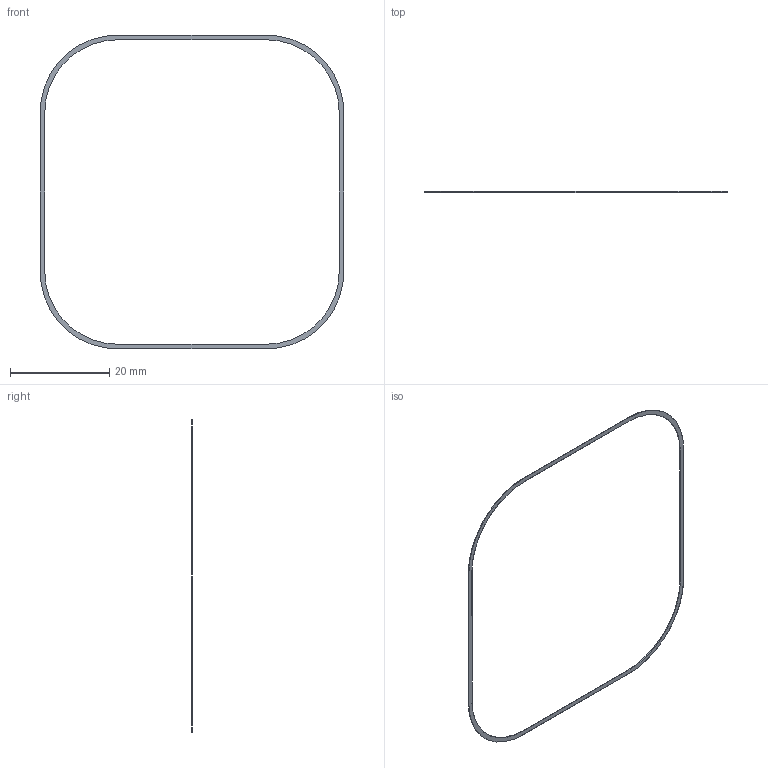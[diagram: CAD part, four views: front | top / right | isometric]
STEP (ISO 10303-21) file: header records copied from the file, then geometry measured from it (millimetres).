
FILE_DESCRIPTION(('Open CASCADE Model'),'2;1');
FILE_NAME('grille_perimeter_PSA_0_13','2026-09-08T13:43:18',('Author'),( 'Open CASCADE'),'Open CASCADE STEP processor 7.8','build123d', 'Unknown');
FILE_SCHEMA(('AUTOMOTIVE_DESIGN { 1 0 10303 214 1 1 1 1 }'));
Length unit declared in the file: millimetre
Products named in the file (3): =>[0:1:1:2]; grille_perimeter_PSA_0_13; SOLID
Assembly tree (2 placements, depth 3):
  =>[0:1:1:2]
    grille_perimeter_PSA_0_13
      SOLID
Bounding box: 61.2 x 0.13 x 63.2 mm (x, y, z)
Volume: 27.1 mm3; surface area: 473.1 mm2
Topology: 1 solids, 1 shells, 18 faces, 48 edges, 32 vertices
Faces by surface type: plane 10, cylinder 8
Entity records: 1242 total; most frequent: DIRECTION 202, CARTESIAN_POINT 197, LINE 112, VECTOR 112, ORIENTED_EDGE 96, PCURVE 96, DEFINITIONAL_REPRESENTATION 96, EDGE_CURVE 48
